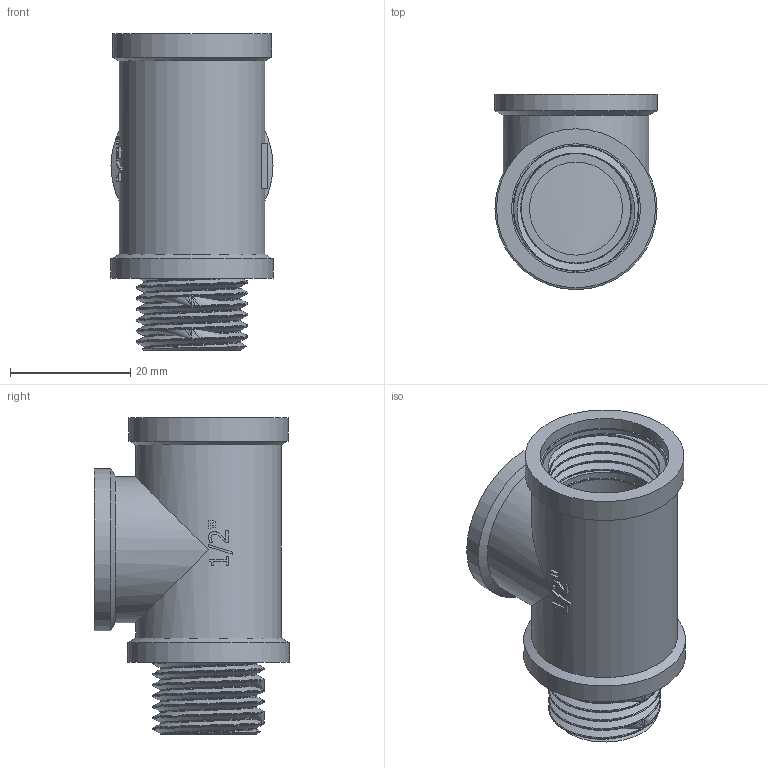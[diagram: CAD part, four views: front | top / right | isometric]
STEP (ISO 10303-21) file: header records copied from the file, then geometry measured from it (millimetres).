
FILE_DESCRIPTION(/* description */ (''),/* implementation_level */ '2;1');
FILE_NAME(/* name */ 'C:\Users\Doom\Desktop\Фадотех\Резьба\T31 18.03.2020\T31 18.03.2020.stp',/* time_stamp */ '2022-01-20T09:49:23+02:00',/* author */ ('Doom'),/* organization */ (''),/* preprocessor_version */ 'ST-DEVELOPER v18',/* originating_system */ 'Autodesk Inventor 2020',/* authorisation */ '');
FILE_SCHEMA (('AUTOMOTIVE_DESIGN { 1 0 10303 214 3 1 1 }'));
Length unit declared in the file: millimetre
Products named in the file (1): T31 18.03.2020
Bounding box: 27 x 32.5 x 52.7 mm (x, y, z)
Volume: 11394.4 mm3; surface area: 14103.1 mm2
Topology: 4 solids, 4 shells, 144 faces, 394 edges, 267 vertices
Faces by surface type: plane 64, cylinder 42, bspline 34, cone 4
Full cylindrical faces by diameter (mm): 15.5 x1, 15.94 x6, 18.254 x5, 18.63 x10, 20.944 x2, 21.5 x2, 24.3 x2, 26.5 x1, 27 x2
Entity records: 14707 total; most frequent: CARTESIAN_POINT 11233, ORIENTED_EDGE 780, DIRECTION 593, EDGE_CURVE 390, VERTEX_POINT 265, AXIS2_PLACEMENT_3D 214, EDGE_LOOP 165, LINE 165
